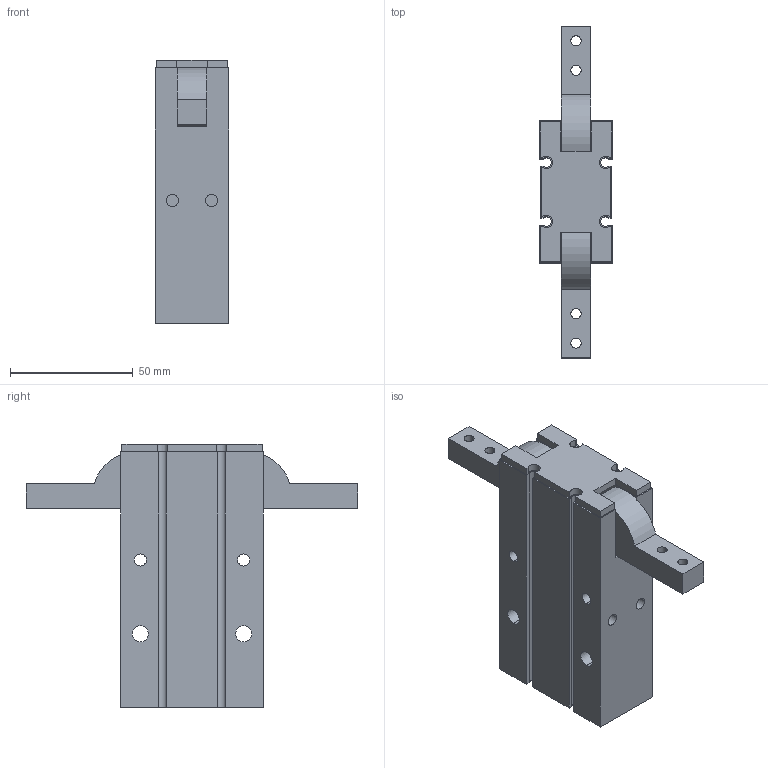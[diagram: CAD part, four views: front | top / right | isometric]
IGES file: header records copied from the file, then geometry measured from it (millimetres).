
Global section: file name: No Iges File Name specified; native system: AutoDesk Inventor R11.0; preprocessor: AutoDesk Inventor Iges Exporter R11.0; author: No Author specified; organization: No Organization specified; date: 20070226.140111; units: millimetre
Bounding box: 30 x 135 x 107 mm (x, y, z)
Volume: 171722.1 mm3; surface area: 39550.6 mm2
Topology: 3 solids, 3 shells, 122 faces, 326 edges, 216 vertices
Faces by surface type: plane 64, bspline 34, revolution 16, cylinder 8
